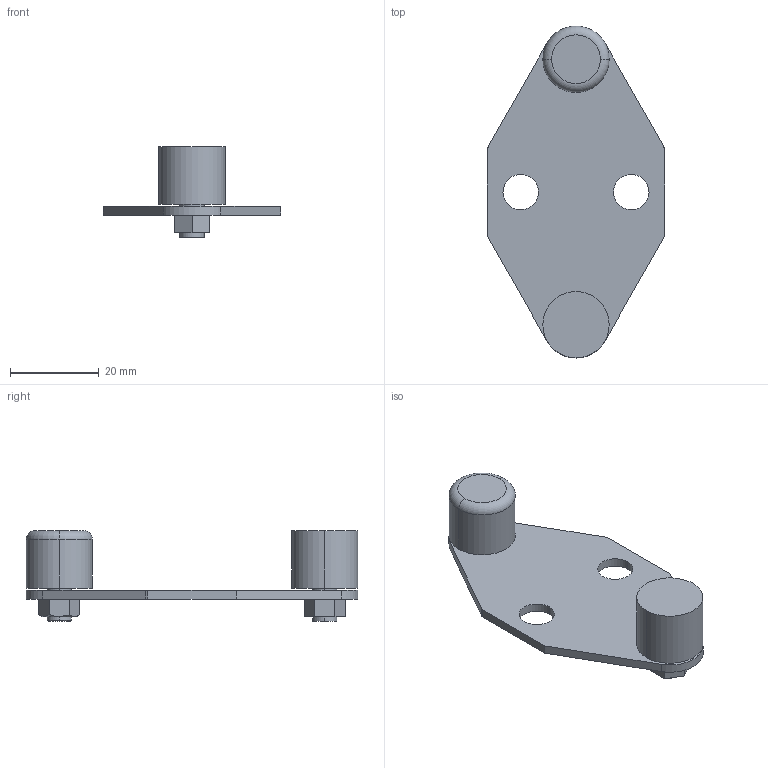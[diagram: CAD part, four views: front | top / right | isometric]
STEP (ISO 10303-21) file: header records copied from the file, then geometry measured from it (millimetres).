
FILE_DESCRIPTION (( 'STEP AP203' ), '1' );
FILE_NAME ('MG0640P-6.STEP', '2024-02-19T13:15:20', ( '' ), ( '' ), 'SwSTEP 2.0', 'SolidWorks 2022', '' );
FILE_SCHEMA (( 'CONFIG_CONTROL_DESIGN' ));
Length unit declared in the file: millimetre
Products named in the file (1): MG0640P-6
Bounding box: 40 x 75 x 20.5 mm (x, y, z)
Volume: 9122.6 mm3; surface area: 6575.7 mm2
Topology: 1 solids, 1 shells, 56 faces, 134 edges, 88 vertices
Faces by surface type: bspline 21, plane 16, cylinder 13, cone 4, torus 2
Entity records: 1788 total; most frequent: CARTESIAN_POINT 454, ORIENTED_EDGE 268, DIRECTION 240, EDGE_CURVE 134, VERTEX_POINT 88, AXIS2_PLACEMENT_3D 84, VECTOR 72, LINE 72
